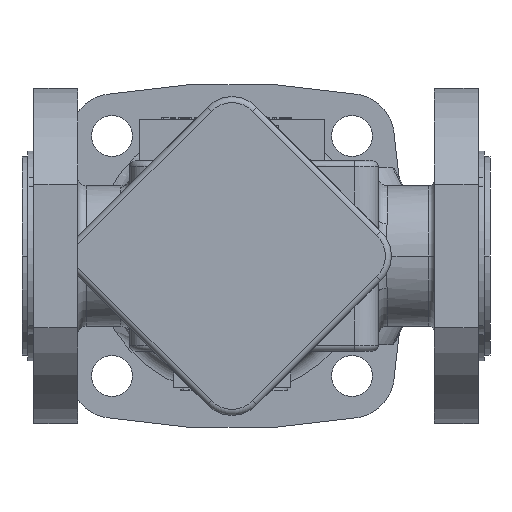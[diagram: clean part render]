
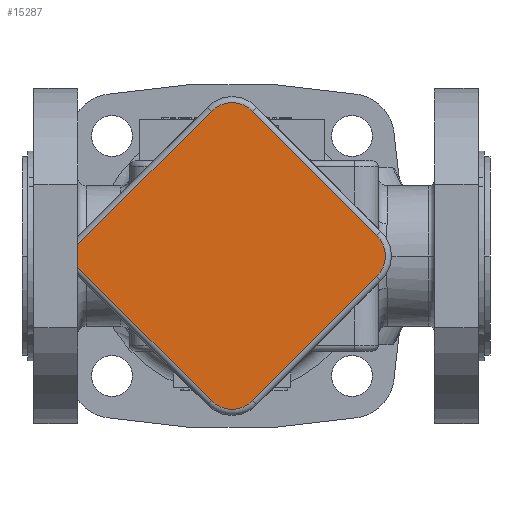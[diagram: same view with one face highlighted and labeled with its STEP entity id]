
A CAD part, front view. The second image highlights one B-rep face of the part: STEP entity #15287.
In plain terms, the highlighted planar face has unit normal (0, -1, 0).
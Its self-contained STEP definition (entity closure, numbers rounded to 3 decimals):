
#2424=DIRECTION('',(-0.707,0.,-0.707));
#2425=VECTOR('',#2424,64.67);
#2426=CARTESIAN_POINT('',(-7.071,-47.,49.497));
#2427=LINE('',#2426,#2425);
#2428=CARTESIAN_POINT('',(0.,-47.,42.426));
#2429=DIRECTION('',(0.,-1.,0.));
#2430=DIRECTION('',(0.707,0.,0.707));
#2431=AXIS2_PLACEMENT_3D('',#2428,#2429,#2430);
#2433=DIRECTION('',(-0.707,0.,0.707));
#2434=VECTOR('',#2433,60.);
#2435=CARTESIAN_POINT('',(49.497,-47.,7.071));
#2436=LINE('',#2435,#2434);
#2437=CARTESIAN_POINT('',(42.426,-47.,0.));
#2438=DIRECTION('',(0.,-1.,0.));
#2439=DIRECTION('',(0.707,0.,-0.707));
#2440=AXIS2_PLACEMENT_3D('',#2437,#2438,#2439);
#2442=DIRECTION('',(0.707,0.,0.707));
#2443=VECTOR('',#2442,60.);
#2444=CARTESIAN_POINT('',(7.071,-47.,-49.497));
#2445=LINE('',#2444,#2443);
#2446=CARTESIAN_POINT('',(0.,-47.,-42.426));
#2447=DIRECTION('',(0.,-1.,0.));
#2448=DIRECTION('',(-0.707,0.,-0.707));
#2449=AXIS2_PLACEMENT_3D('',#2446,#2447,#2448);
#2451=DIRECTION('',(0.707,0.,-0.707));
#2452=VECTOR('',#2451,64.67);
#2453=CARTESIAN_POINT('',(-52.8,-47.,-3.769));
#2454=LINE('',#2453,#2452);
#2455=CARTESIAN_POINT('',(-52.8,-47.,3.769));
#2515=DIRECTION('',(0.,0.,1.));
#2516=VECTOR('',#2515,7.537);
#2517=CARTESIAN_POINT('',(-52.8,-47.,-3.769));
#2518=LINE('',#2517,#2516);
#3333=CARTESIAN_POINT('',(-52.8,-47.,-3.769));
#10254=VERTEX_POINT('',#3333);
#10255=VERTEX_POINT('',#2455);
#11758=CARTESIAN_POINT('',(-7.071,-47.,49.497));
#11759=VERTEX_POINT('',#11758);
#11760=CARTESIAN_POINT('',(7.071,-47.,49.497));
#11761=VERTEX_POINT('',#11760);
#11764=CARTESIAN_POINT('',(49.497,-47.,7.071));
#11765=VERTEX_POINT('',#11764);
#11768=CARTESIAN_POINT('',(49.497,-47.,-7.071));
#11769=VERTEX_POINT('',#11768);
#11772=CARTESIAN_POINT('',(7.071,-47.,-49.497));
#11773=VERTEX_POINT('',#11772);
#11776=CARTESIAN_POINT('',(-7.071,-47.,-49.497));
#11777=VERTEX_POINT('',#11776);
#15265=CARTESIAN_POINT('',(0.,-47.,0.));
#15266=DIRECTION('',(0.,-1.,0.));
#15267=DIRECTION('',(-1.,0.,0.));
#15268=AXIS2_PLACEMENT_3D('',#15265,#15266,#15267);
#15269=PLANE('',#15268);
#15271=ORIENTED_EDGE('',*,*,#15270,.F.);
#15273=ORIENTED_EDGE('',*,*,#15272,.F.);
#15275=ORIENTED_EDGE('',*,*,#15274,.F.);
#15277=ORIENTED_EDGE('',*,*,#15276,.F.);
#15279=ORIENTED_EDGE('',*,*,#15278,.F.);
#15280=ORIENTED_EDGE('',*,*,#15255,.F.);
#15282=ORIENTED_EDGE('',*,*,#15281,.F.);
#15284=ORIENTED_EDGE('',*,*,#15283,.T.);
#15285=EDGE_LOOP('',(#15271,#15273,#15275,#15277,#15279,#15280,#15282,#15284));
#15286=FACE_OUTER_BOUND('',#15285,.F.);
#15287=ADVANCED_FACE('',(#15286),#15269,.T.);
#2432=CIRCLE('',#2431,10.);
#2441=CIRCLE('',#2440,10.);
#2450=CIRCLE('',#2449,10.);
#15255=EDGE_CURVE('',#11777,#11773,#2450,.T.);
#15270=EDGE_CURVE('',#11759,#10255,#2427,.T.);
#15272=EDGE_CURVE('',#11761,#11759,#2432,.T.);
#15274=EDGE_CURVE('',#11765,#11761,#2436,.T.);
#15276=EDGE_CURVE('',#11769,#11765,#2441,.T.);
#15278=EDGE_CURVE('',#11773,#11769,#2445,.T.);
#15281=EDGE_CURVE('',#10254,#11777,#2454,.T.);
#15283=EDGE_CURVE('',#10254,#10255,#2518,.T.);
